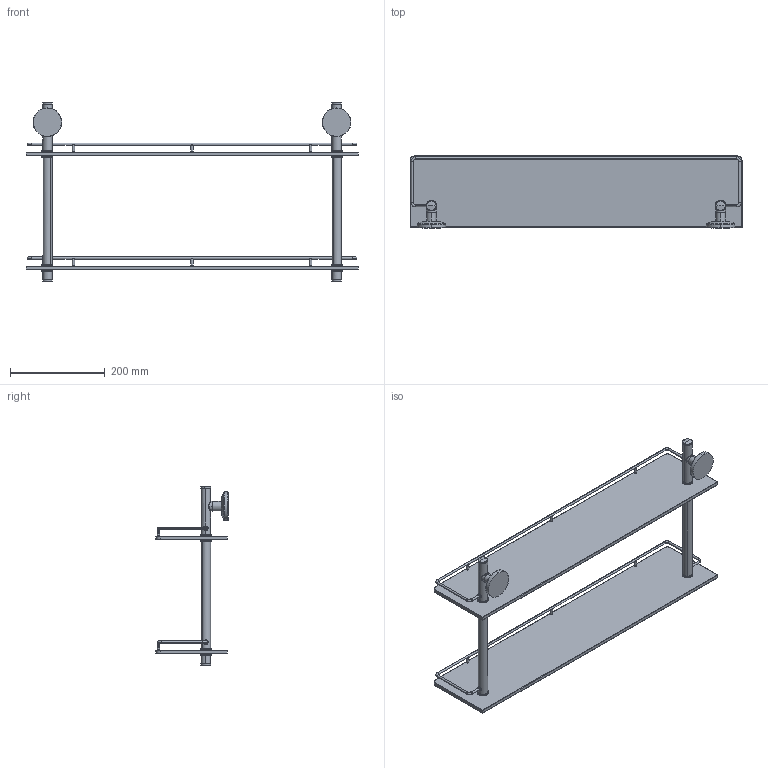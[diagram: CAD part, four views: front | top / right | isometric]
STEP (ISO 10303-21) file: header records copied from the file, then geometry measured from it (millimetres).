
FILE_DESCRIPTION(('THIS FILE CONTAINS SOME STEP INSTANCES'),'1');
FILE_NAME('sta_066.stp','2015-12-09T11:10:47',('UNDEFINED'),('UNDEFINED'),'T-FLEX CAD STEP converter','T-FLEX CAD','');
FILE_SCHEMA(('CONFIG_CONTROL_DESIGN'));
Length unit declared in the file: metre
Products named in the file (6): 砱鋋_23; 砱鋋_24; 3D 鐨飹懤艜_49
Bounding box: 700 x 151.9 x 378.4 mm (x, y, z)
Volume: 2027098.6 mm3; surface area: 544955.1 mm2
Topology: 6 solids, 10 shells, 390 faces, 942 edges, 568 vertices
Faces by surface type: cylinder 136, plane 76, bspline 66, cone 64, torus 40, sphere 8
Entity records: 31311 total; most frequent: CARTESIAN_POINT 23973, ORIENTED_EDGE 1820, DIRECTION 1060, EDGE_CURVE 910, VERTEX_POINT 568, EDGE_LOOP 426, AXIS2_PLACEMENT_3D 404, ADVANCED_FACE 390
